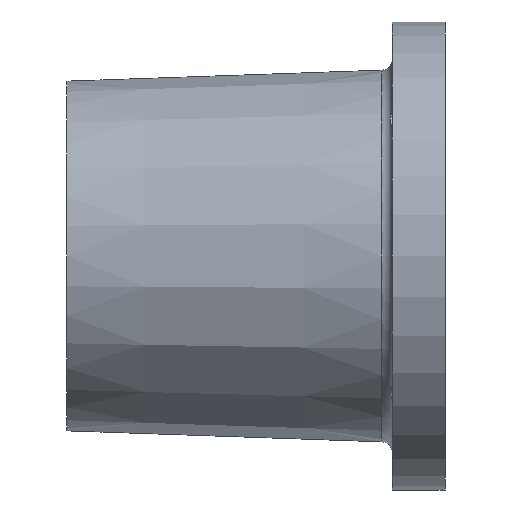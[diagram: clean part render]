
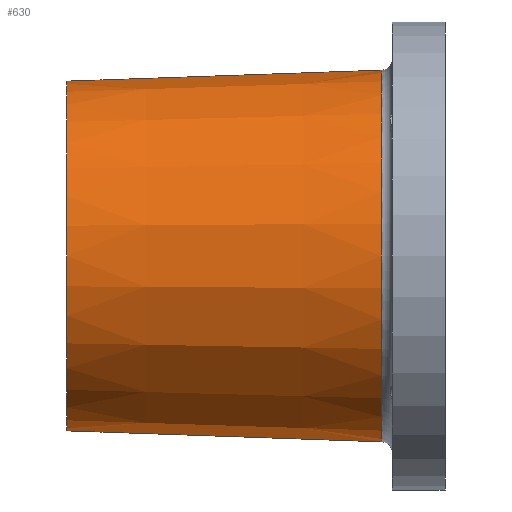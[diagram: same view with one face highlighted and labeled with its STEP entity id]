
A CAD part, left-side view. The second image highlights one B-rep face of the part: STEP entity #630.
In plain terms, the highlighted conical face has half-angle 2 degrees and reference radius 71.141 mm.
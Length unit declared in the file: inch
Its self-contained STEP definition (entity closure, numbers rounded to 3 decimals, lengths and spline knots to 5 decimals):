
#279 = CARTESIAN_POINT ( 'NONE',  ( 0., 6.06, 2.80185 ) ) ;
#525 = ORIENTED_EDGE ( 'NONE', *, *, #6127, .T. ) ;
#599 = CARTESIAN_POINT ( 'NONE',  ( 0., 6.06, -2.80185 ) ) ;
#630 = ADVANCED_FACE ( 'NONE', ( #2109 ), #3191, .T. ) ;
#2029 = DIRECTION ( 'NONE',  ( 0., -1., 0. ) ) ;
#2109 = FACE_OUTER_BOUND ( 'NONE', #6334, .T. ) ;
#2376 = DIRECTION ( 'NONE',  ( 0., -0.999, 0.035 ) ) ;
#2556 = CARTESIAN_POINT ( 'NONE',  ( 0., 6.089, 0. ) ) ;
#2730 = CARTESIAN_POINT ( 'NONE',  ( 0., 6.06, 0. ) ) ;
#2802 = AXIS2_PLACEMENT_3D ( 'NONE', #6370, #3141, #6928 ) ;
#2860 = VERTEX_POINT ( 'NONE', #279 ) ;
#2872 = ORIENTED_EDGE ( 'NONE', *, *, #6275, .T. ) ;
#2928 = AXIS2_PLACEMENT_3D ( 'NONE', #2730, #6506, #3273 ) ;
#3141 = DIRECTION ( 'NONE',  ( 0., 1., 0. ) ) ;
#3144 = VERTEX_POINT ( 'NONE', #4067 ) ;
#3191 = CONICAL_SURFACE ( 'NONE', #5163, 2.80084, 0.035 ) ;
#3199 = CARTESIAN_POINT ( 'NONE',  ( 0., 6.089, -2.80084 ) ) ;
#3273 = DIRECTION ( 'NONE',  ( 0., 0., 1. ) ) ;
#3356 = CIRCLE ( 'NONE', #2928, 2.80185 ) ;
#3533 = LINE ( 'NONE', #3199, #4760 ) ;
#3731 = DIRECTION ( 'NONE',  ( 0., -0.999, -0.035 ) ) ;
#4067 = CARTESIAN_POINT ( 'NONE',  ( 0., 1.01772, -2.97793 ) ) ;
#4084 = VECTOR ( 'NONE', #2376, 39.37008 ) ;
#4760 = VECTOR ( 'NONE', #3731, 39.37008 ) ;
#4940 = ORIENTED_EDGE ( 'NONE', *, *, #6691, .F. ) ;
#4993 = VERTEX_POINT ( 'NONE', #599 ) ;
#5009 = CIRCLE ( 'NONE', #2802, 2.97793 ) ;
#5163 = AXIS2_PLACEMENT_3D ( 'NONE', #2556, #2029, #6320 ) ;
#5214 = CARTESIAN_POINT ( 'NONE',  ( 0., 1.01772, 2.97793 ) ) ;
#5508 = LINE ( 'NONE', #6101, #4084 ) ;
#5671 = VERTEX_POINT ( 'NONE', #5214 ) ;
#6101 = CARTESIAN_POINT ( 'NONE',  ( 0., 6.089, 2.80084 ) ) ;
#6127 = EDGE_CURVE ( 'NONE', #4993, #3144, #3533, .T. ) ;
#6152 = EDGE_CURVE ( 'NONE', #4993, #2860, #3356, .T. ) ;
#6275 = EDGE_CURVE ( 'NONE', #3144, #5671, #5009, .T. ) ;
#6320 = DIRECTION ( 'NONE',  ( 0., 0., -1. ) ) ;
#6334 = EDGE_LOOP ( 'NONE', ( #4940, #6617, #525, #2872 ) ) ;
#6370 = CARTESIAN_POINT ( 'NONE',  ( 0., 1.01772, 0. ) ) ;
#6506 = DIRECTION ( 'NONE',  ( 0., 1., 0. ) ) ;
#6617 = ORIENTED_EDGE ( 'NONE', *, *, #6152, .F. ) ;
#6691 = EDGE_CURVE ( 'NONE', #2860, #5671, #5508, .T. ) ;
#6928 = DIRECTION ( 'NONE',  ( 0., 0., -1. ) ) ;
